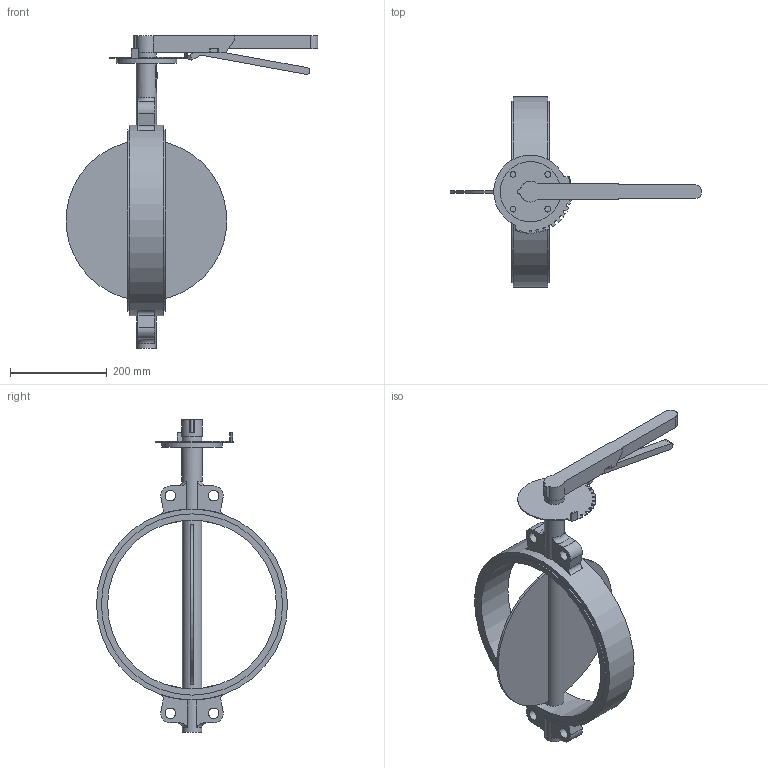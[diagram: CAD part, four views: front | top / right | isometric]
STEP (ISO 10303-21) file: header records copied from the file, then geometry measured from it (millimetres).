
FILE_DESCRIPTION(('STEP AP203'), '1');
FILE_NAME('Çàòâîð 017W.Y_DN350_PN10_ðóêîÿòü', '', ('UNSPECIFIED'), ('UNSPECIFIED'), 'ASCON STEP Converter 1.6', 'ASCON Math Kernel', '');
FILE_SCHEMA(('CONFIG_CONTROL_DESIGN'));
Length unit declared in the file: millimetre
Bounding box: 521.05 x 395.6 x 648 mm (x, y, z)
Volume: 3951391.5 mm3; surface area: 584265.6 mm2
Topology: 1 solids, 1 shells, 196 faces, 529 edges, 350 vertices
Faces by surface type: plane 110, cylinder 82, torus 4
Full cylindrical faces by diameter (mm): 12 x4, 22 x4, 40 x2, 41 x1, 42 x1, 125 x1, 350 x1, 375.6 x2, 395.6 x1
Entity records: 8736 total; most frequent: CARTESIAN_POINT 2092, DIRECTION 1072, ORIENTED_EDGE 1024, EDGE_CURVE 512, AXIS2_PLACEMENT_3D 383, VERTEX_POINT 350, LINE 306, VECTOR 306
